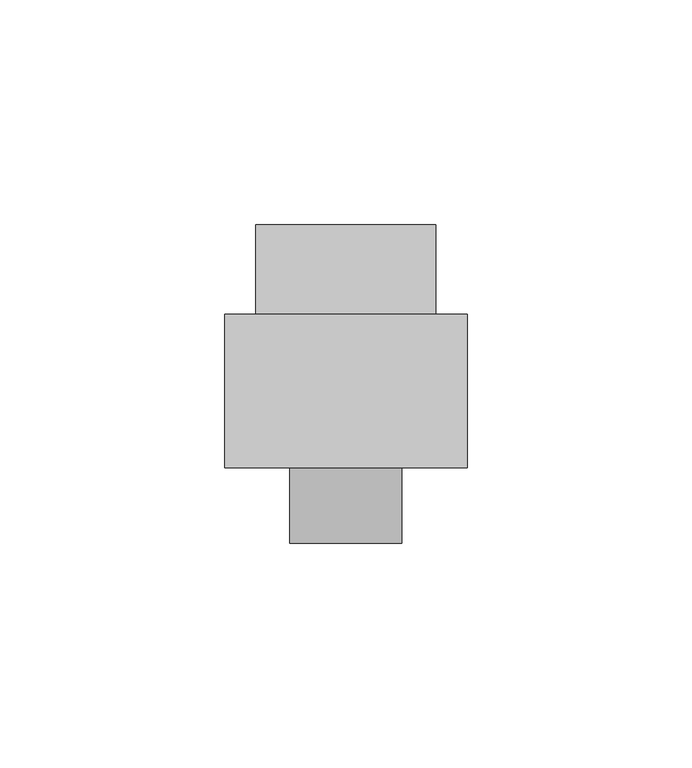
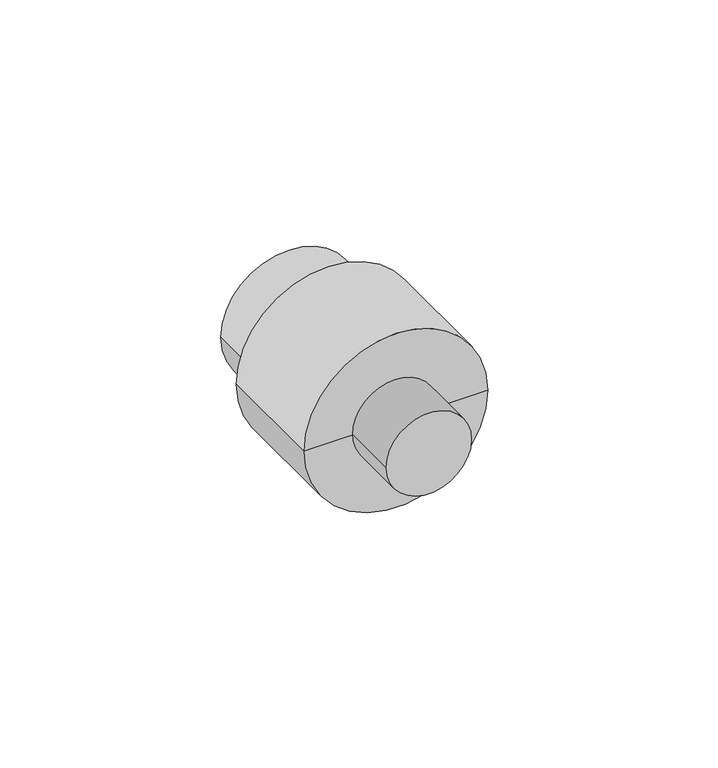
"""IFC4 building model written with IfcOpenShell, lengths in millimetres: pipe fitting geometry, NIRON RED termofusion roscado enlace rosca macho : Estándar."""

from ifc_helpers import new_model, si_unit, point, frame, origin, origin_2d, place, context, project, spatial, circle_curve, trimmed, segment, composite_curve, outline, extrude, source, transform, mapped, element, save
from ifc_brep_helpers import plane_surface, cylinder_surface, advanced_brep


def pipe_fitting_811cd8f2(model_context):
    return source(origin(), model_context, "Body", "SolidModel", [
        extrude(outline(composite_curve([segment(trimmed(circle_curve(origin_2d(), 12.5), [point((0.0, -12.5))], [point((0.0, 12.5))], False, "CARTESIAN"), True, "CONTINUOUS"), segment(trimmed(circle_curve(origin_2d(), 12.5), [point((0.0, 12.5))], [point((0.0, -12.5))], False, "CARTESIAN"), True, "CONTINUOUS")], self_intersect=False)), frame((0.0, -5.0, 0.0), z_axis=(0.0, 1.0, 0.0), x_axis=(0.0, 0.0, 1.0)), (0.0, 0.0, 1.0), 30.0),
        advanced_brep(
        [(20.0, 66.0, 0.0), (-20.0, 66.0, 0.0), (0.0, 66.0, 0.0), (27.0, 11.8, 0.0), (-27.0, 11.8, 0.0), (-27.0, 46.0, 0.0), (27.0, 46.0, 0.0), (0.0, 11.8, 0.0), (20.0, 46.0, 0.0), (-20.0, 46.0, 0.0)],
        [
            (0, 1, circle_curve(frame((0.0, 66.0, 0.0), z_axis=(0.0, 1.0, 0.0), x_axis=(-1.0, 0.0, 0.0)), 20.0)),
            (1, 2),
            (2, 0),
            (1, 0, circle_curve(frame((0.0, 66.0, 0.0), z_axis=(0.0, 1.0, 0.0), x_axis=(-1.0, 0.0, 0.0)), 20.0)),
            (3, 4, circle_curve(frame((0.0, 11.8, 0.0), z_axis=(0.0, 1.0, 0.0), x_axis=(-1.0, 0.0, 0.0)), 27.0)),
            (4, 5),
            (5, 6, circle_curve(frame((0.0, 46.0, 0.0), z_axis=(0.0, -1.0, 0.0), x_axis=(-1.0, 0.0, 0.0)), 27.0)),
            (6, 3),
            (4, 3, circle_curve(frame((0.0, 11.8, 0.0), z_axis=(0.0, 1.0, 0.0), x_axis=(-1.0, 0.0, 0.0)), 27.0)),
            (6, 5, circle_curve(frame((0.0, 46.0, 0.0), z_axis=(0.0, -1.0, 0.0), x_axis=(-1.0, 0.0, 0.0)), 27.0)),
            (7, 4),
            (3, 7),
            (8, 9, circle_curve(frame((0.0, 46.0, 0.0), z_axis=(0.0, 1.0, 0.0), x_axis=(-1.0, 0.0, 0.0)), 20.0)),
            (9, 1),
            (0, 8),
            (9, 8, circle_curve(frame((0.0, 46.0, 0.0), z_axis=(0.0, 1.0, 0.0), x_axis=(-1.0, 0.0, 0.0)), 20.0)),
            (5, 9),
            (8, 6),
        ],
        [
            plane_surface(frame((0.0, 66.0, 0.0), z_axis=(0.0, 1.0, 0.0), x_axis=(-1.0, 0.0, 0.0))),
            cylinder_surface(frame((0.0, 76.0, 0.0), z_axis=(0.0, -1.0, 0.0), x_axis=(-1.0, 0.0, 0.0)), 27.0),
            plane_surface(frame((0.0, 11.8, 0.0), z_axis=(0.0, -1.0, 0.0), x_axis=(-1.0, 0.0, 0.0))),
            cylinder_surface(frame((0.0, 76.0, 0.0), z_axis=(0.0, -1.0, 0.0), x_axis=(-1.0, 0.0, 0.0)), 20.0),
            plane_surface(frame((0.0, 46.0, 0.0), z_axis=(0.0, 1.0, 0.0), x_axis=(-1.0, 0.0, 0.0))),
        ],
        [
            (0, [[1, 2, 3]]),
            (0, [[4, -3, -2]]),
            (1, [[5, 6, 7, 8]]),
            (1, [[9, -8, 10, -6]]),
            (2, [[11, -5, 12]]),
            (2, [[-12, -9, -11]]),
            (3, [[13, 14, -1, 15]]),
            (3, [[16, -15, -4, -14]]),
            (4, [[-7, 17, -13, 18]]),
            (4, [[-10, -18, -16, -17]]),
        ],
    ),
    ])


if __name__ == "__main__":
    model = new_model("IFC4")
    model_context = context("Model", 3, world=origin())
    ifc_project = project(units=[si_unit("LENGTHUNIT", "METRE", prefix="MILLI")], contexts=[model_context])
    site = spatial("IfcSite", under=ifc_project)
    building = spatial("IfcBuilding", under=site)
    placement = place(None, origin())
    pipe_fitting_shape = pipe_fitting_811cd8f2(model_context)
    element("IfcPipeFitting", 1, ObjectType="NIRON RED termofusion roscado enlace rosca macho : Estándar", at=placement, inside=building, context=model_context, shape_type="MappedRepresentation", body=[
        mapped(pipe_fitting_shape, transform((0.0, 0.0, 0.0), x_axis=(1.0, 0.0, 0.0), y_axis=(0.0, 1.0, 0.0), z_axis=(0.0, 0.0, 1.0))),
    ])
    save(model, "model.ifc")
